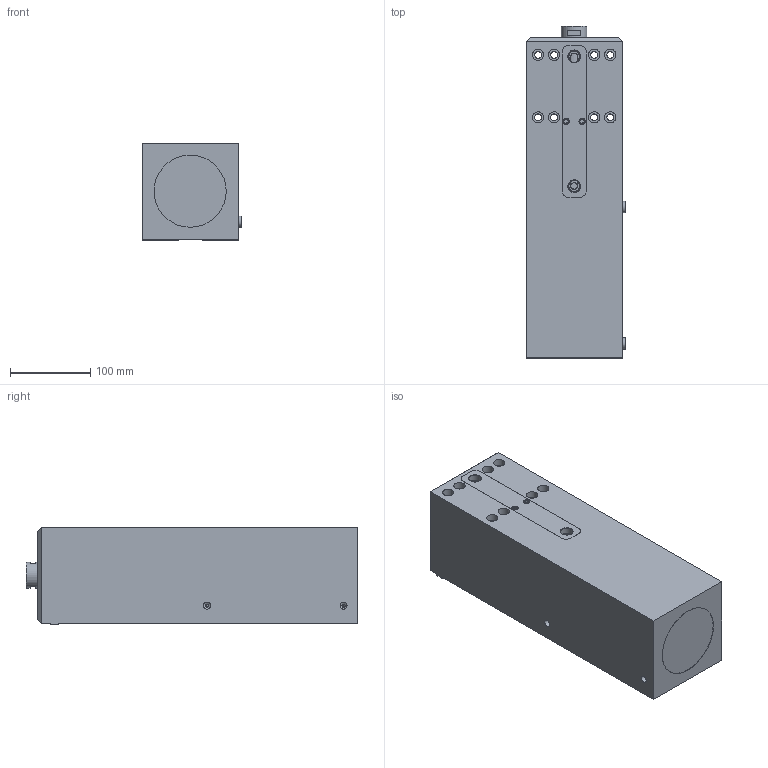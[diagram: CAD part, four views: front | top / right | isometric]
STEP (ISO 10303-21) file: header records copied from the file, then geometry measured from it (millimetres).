
FILE_DESCRIPTION (( 'STEP AP203' ), '1' );
FILE_NAME ('ASUTEC_ASP-3000-160-I.STEP', '2017-12-08T10:03:05', ( '' ), ( '' ), 'SwSTEP 2.0', 'SolidWorks 2015', '' );
FILE_SCHEMA (( 'CONFIG_CONTROL_DESIGN' ));
Products named in the file (1): ASUTEC_ASP-3000-160-I
Bounding box: 124.6 x 414 x 122 mm (x, y, z)
Volume: 4809929.5 mm3; surface area: 409210.8 mm2
Topology: 2 solids, 2 shells, 782 faces, 2026 edges, 1342 vertices
Faces by surface type: plane 429, bspline 239, cylinder 99, cone 9, torus 6
Full cylindrical faces by diameter (mm): 4 x4, 6.8 x1, 7 x4, 8 x6, 8.5 x8, 8.7 x4, 14 x10, 15 x2, 32 x2, 85 x2, 90 x1
Entity records: 36179 total; most frequent: CARTESIAN_POINT 18758, ORIENTED_EDGE 3892, DIRECTION 2750, EDGE_CURVE 1946, VERTEX_POINT 1322, VECTOR 1246, LINE 1246, EDGE_LOOP 960
